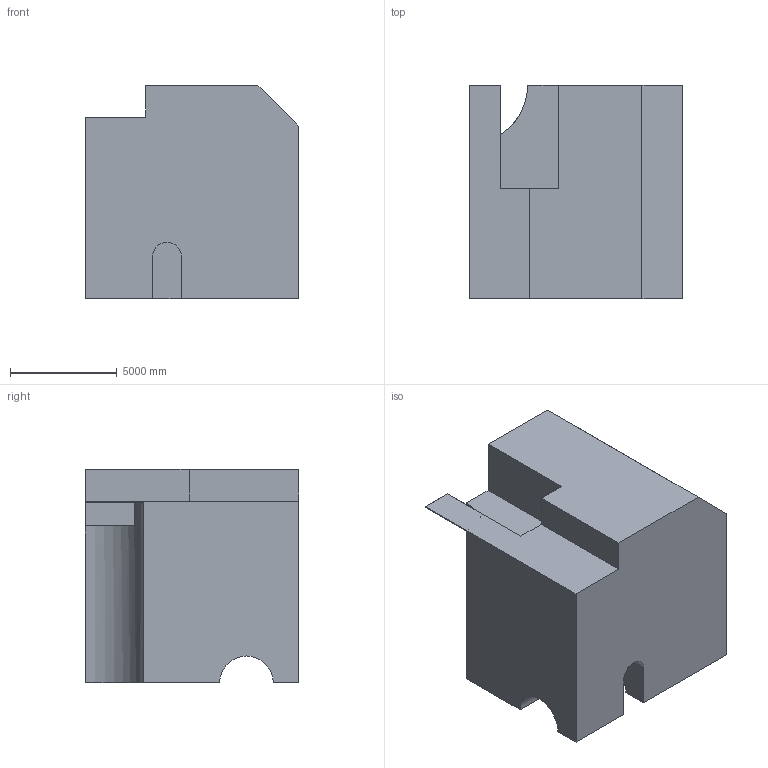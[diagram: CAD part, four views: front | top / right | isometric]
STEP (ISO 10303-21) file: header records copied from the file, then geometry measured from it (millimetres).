
FILE_DESCRIPTION (( 'STEP AP203' ), '1' );
FILE_NAME ('1508.STEP', '2022-08-26T10:22:34', ( 'user' ), ( '' ), 'SwSTEP 2.0', 'SolidWorks 2021', '' );
FILE_SCHEMA (( 'CONFIG_CONTROL_DESIGN' ));
Length unit declared in the file: centimetre
Products named in the file (1): 1508
Bounding box: 10000 x 10000 x 10000 mm (x, y, z)
Volume: 821402136362.9 mm3; surface area: 606282989.2 mm2
Topology: 1 solids, 1 shells, 26 faces, 72 edges, 48 vertices
Faces by surface type: plane 20, cylinder 6
Entity records: 906 total; most frequent: CARTESIAN_POINT 147, ORIENTED_EDGE 144, DIRECTION 139, EDGE_CURVE 72, LINE 59, VECTOR 59, VERTEX_POINT 48, AXIS2_PLACEMENT_3D 40
